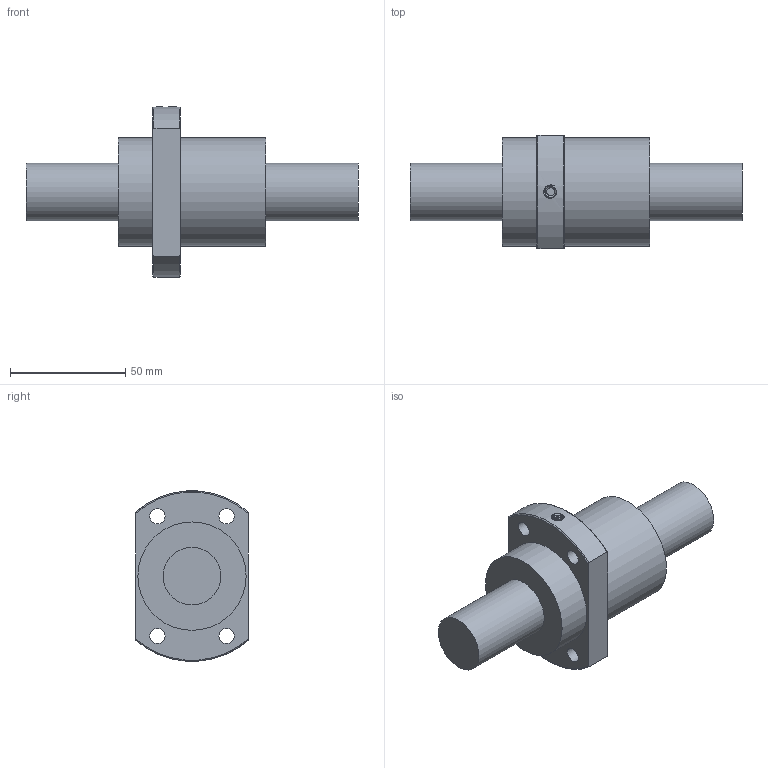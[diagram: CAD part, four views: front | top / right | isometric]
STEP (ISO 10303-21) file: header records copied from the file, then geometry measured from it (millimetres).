
FILE_DESCRIPTION(/* description */ ('Unknown','CAx-IF Rec.Pracs.---Representation and Presentation of Product Manufacturing Information (PMI)---4.0---2014-10-13','CAx-IF Rec.Pracs.---3D Tessellated Geometry---0.4---2014-09-14','2;1'),/* implementation_level */ '2;1');
FILE_NAME(/* name */ 'SFY2525-3.6',/* time_stamp */ '2020-12-06T18:08:41+08:00',/* author */ ('Unknown'),/* organization */ ('Unknown'),/* preprocessor_version */ 'ST-DEVELOPER v16.7',/* originating_system */ 'Solid Edge',/* authorisation */ 'Unknown');
FILE_SCHEMA (('AP242_MANAGED_MODEL_BASED_3D_ENGINEERING_MIM_LF { 1 0 10303 442 1 1 4 }'));
Length unit declared in the file: millimetre
Products named in the file (1): SFY2525-3
Bounding box: 144 x 49 x 73.88 mm (x, y, z)
Volume: 167579 mm3; surface area: 24321 mm2
Topology: 1 solids, 1 shells, 30 faces, 70 edges, 47 vertices
Faces by surface type: cylinder 13, plane 10, torus 4, bspline 2, cone 1
Full cylindrical faces by diameter (mm): 3.5 x1, 6.6 x4, 25 x2, 47 x2
Entity records: 3175 total; most frequent: CARTESIAN_POINT 2487, DIRECTION 130, ORIENTED_EDGE 110, AXIS2_PLACEMENT_3D 62, EDGE_CURVE 55, EDGE_LOOP 53, FACE_BOUND 53, VERTEX_POINT 42
